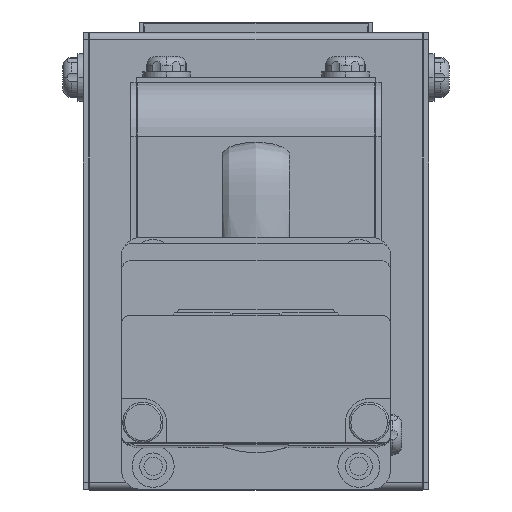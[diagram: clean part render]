
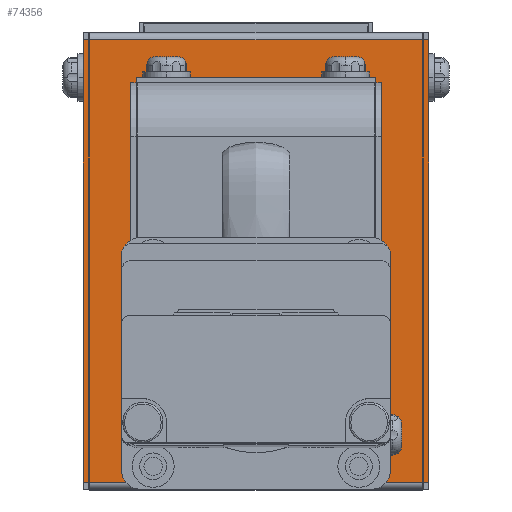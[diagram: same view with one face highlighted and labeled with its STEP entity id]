
A CAD part, top view. The second image highlights one B-rep face of the part: STEP entity #74356.
In plain terms, the highlighted planar face has unit normal (0, 0, 1).
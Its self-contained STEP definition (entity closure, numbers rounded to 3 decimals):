
#345 = AXIS2_PLACEMENT_3D ( 'NONE', #19491, #25311, #65579 ) ;
#1303 = EDGE_LOOP ( 'NONE', ( #39470, #69993, #15274, #31824, #33562, #33033, #7396, #47917 ) ) ;
#3628 = VERTEX_POINT ( 'NONE', #4718 ) ;
#3668 = DIRECTION ( 'NONE',  ( 1., 0., 0. ) ) ;
#4718 = CARTESIAN_POINT ( 'NONE',  ( 19.3, 36.3, -66. ) ) ;
#5224 = EDGE_CURVE ( 'NONE', #3628, #68068, #24386, .T. ) ;
#6982 = EDGE_CURVE ( 'NONE', #68068, #35679, #29361, .T. ) ;
#7396 = ORIENTED_EDGE ( 'NONE', *, *, #5224, .F. ) ;
#7811 = DIRECTION ( 'NONE',  ( -1., 0., 0. ) ) ;
#9464 = CARTESIAN_POINT ( 'NONE',  ( -18.7, 36.3, -66. ) ) ;
#11274 = VECTOR ( 'NONE', #3668, 1000. ) ;
#12218 = VECTOR ( 'NONE', #47495, 1000. ) ;
#12223 = LINE ( 'NONE', #12724, #29367 ) ;
#12724 = CARTESIAN_POINT ( 'NONE',  ( -19.3, -13.2, -66. ) ) ;
#12977 = CARTESIAN_POINT ( 'NONE',  ( 18.7, -13.2, -66. ) ) ;
#13616 = CARTESIAN_POINT ( 'NONE',  ( 18.6, -13.2, -66. ) ) ;
#14462 = EDGE_CURVE ( 'NONE', #59535, #64251, #70830, .T. ) ;
#14756 = EDGE_CURVE ( 'NONE', #38673, #64251, #57244, .T. ) ;
#15274 = ORIENTED_EDGE ( 'NONE', *, *, #44831, .F. ) ;
#15649 = LINE ( 'NONE', #13616, #44511 ) ;
#19491 = CARTESIAN_POINT ( 'NONE',  ( 18.6, 36.3, -66. ) ) ;
#19532 = CARTESIAN_POINT ( 'NONE',  ( -18.6, -13.2, -66. ) ) ;
#19534 = CARTESIAN_POINT ( 'NONE',  ( -19.3, 36.3, -66. ) ) ;
#19932 = EDGE_CURVE ( 'NONE', #22342, #71962, #32456, .T. ) ;
#21364 = CARTESIAN_POINT ( 'NONE',  ( 18.7, 36.3, -66. ) ) ;
#22342 = VERTEX_POINT ( 'NONE', #69544 ) ;
#24386 = LINE ( 'NONE', #24978, #68508 ) ;
#24978 = CARTESIAN_POINT ( 'NONE',  ( 19.3, 36.3, -66. ) ) ;
#25311 = DIRECTION ( 'NONE',  ( 0., 0., -1. ) ) ;
#27168 = DIRECTION ( 'NONE',  ( -1., 0., 0. ) ) ;
#27499 = CARTESIAN_POINT ( 'NONE',  ( 18.6, -13.2, -66. ) ) ;
#29361 = LINE ( 'NONE', #12977, #12218 ) ;
#29367 = VECTOR ( 'NONE', #35696, 1000. ) ;
#29448 = DIRECTION ( 'NONE',  ( -1., 0., 0. ) ) ;
#31069 = CARTESIAN_POINT ( 'NONE',  ( -18.7, -13.2, -66. ) ) ;
#31824 = ORIENTED_EDGE ( 'NONE', *, *, #19932, .T. ) ;
#32456 = LINE ( 'NONE', #31069, #47750 ) ;
#33033 = ORIENTED_EDGE ( 'NONE', *, *, #6982, .F. ) ;
#33562 = ORIENTED_EDGE ( 'NONE', *, *, #68173, .F. ) ;
#35679 = VERTEX_POINT ( 'NONE', #27499 ) ;
#35696 = DIRECTION ( 'NONE',  ( 0., 1., 0. ) ) ;
#36301 = EDGE_CURVE ( 'NONE', #3628, #59535, #46872, .T. ) ;
#36892 = DIRECTION ( 'NONE',  ( 1., 0., 0. ) ) ;
#38673 = VERTEX_POINT ( 'NONE', #19534 ) ;
#39470 = ORIENTED_EDGE ( 'NONE', *, *, #14462, .T. ) ;
#44278 = CARTESIAN_POINT ( 'NONE',  ( 18.6, 36.3, -66. ) ) ;
#44511 = VECTOR ( 'NONE', #7811, 1000. ) ;
#44831 = EDGE_CURVE ( 'NONE', #22342, #38673, #12223, .T. ) ;
#46329 = CARTESIAN_POINT ( 'NONE',  ( 18.6, 36.3, -66. ) ) ;
#46872 = LINE ( 'NONE', #21364, #64006 ) ;
#47408 = CARTESIAN_POINT ( 'NONE',  ( 19.3, -13.2, -66. ) ) ;
#47495 = DIRECTION ( 'NONE',  ( -1., 0., 0. ) ) ;
#47750 = VECTOR ( 'NONE', #36892, 1000. ) ;
#47917 = ORIENTED_EDGE ( 'NONE', *, *, #36301, .T. ) ;
#47918 = DIRECTION ( 'NONE',  ( 0., -1., 0. ) ) ;
#49288 = FACE_OUTER_BOUND ( 'NONE', #1303, .T. ) ;
#54005 = PLANE ( 'NONE',  #345 ) ;
#55509 = VECTOR ( 'NONE', #29448, 1000. ) ;
#57244 = LINE ( 'NONE', #9464, #11274 ) ;
#59535 = VERTEX_POINT ( 'NONE', #44278 ) ;
#64006 = VECTOR ( 'NONE', #27168, 1000. ) ;
#64251 = VERTEX_POINT ( 'NONE', #68677 ) ;
#65579 = DIRECTION ( 'NONE',  ( -1., 0., 0. ) ) ;
#68068 = VERTEX_POINT ( 'NONE', #47408 ) ;
#68173 = EDGE_CURVE ( 'NONE', #35679, #71962, #15649, .T. ) ;
#68508 = VECTOR ( 'NONE', #47918, 1000. ) ;
#68677 = CARTESIAN_POINT ( 'NONE',  ( -18.6, 36.3, -66. ) ) ;
#69544 = CARTESIAN_POINT ( 'NONE',  ( -19.3, -13.2, -66. ) ) ;
#69993 = ORIENTED_EDGE ( 'NONE', *, *, #14756, .F. ) ;
#70830 = LINE ( 'NONE', #46329, #55509 ) ;
#71962 = VERTEX_POINT ( 'NONE', #19532 ) ;
#74356 = ADVANCED_FACE ( 'NONE', ( #49288 ), #54005, .F. ) ;
